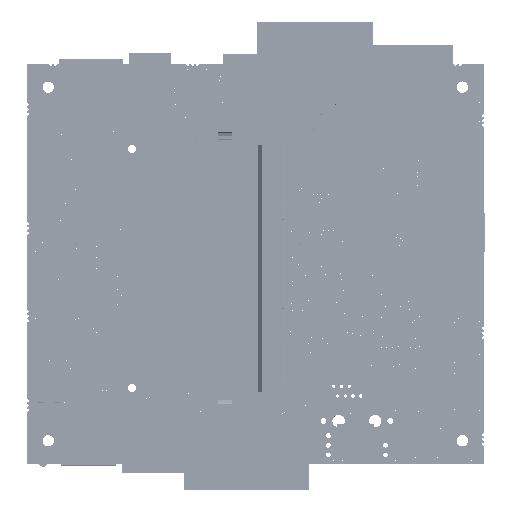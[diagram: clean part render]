
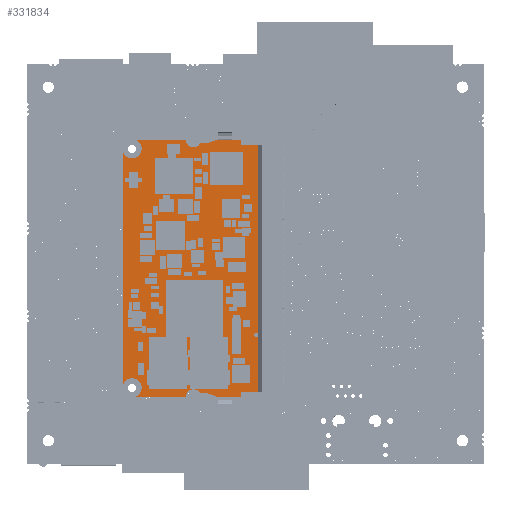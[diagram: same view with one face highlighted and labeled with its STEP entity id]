
A CAD part, top view. The second image highlights one B-rep face of the part: STEP entity #331834.
In plain terms, the highlighted planar face has unit normal (0, 0, 1).
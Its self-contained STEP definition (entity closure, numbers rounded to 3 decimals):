
#90031 = LINE ( 'NONE', #94275, #92783 ) ;
#90084 = LINE ( 'NONE', #94427, #92865 ) ;
#90121 = LINE ( 'NONE', #94581, #92903 ) ;
#90139 = LINE ( 'NONE', #94691, #92933 ) ;
#90146 = LINE ( 'NONE', #94716, #92939 ) ;
#90153 = LINE ( 'NONE', #94740, #92946 ) ;
#90169 = LINE ( 'NONE', #94820, #92968 ) ;
#90176 = LINE ( 'NONE', #98257, #92976 ) ;
#90185 = LINE ( 'NONE', #98292, #92987 ) ;
#92754 = CIRCLE ( 'NONE', #92755, 2.516 ) ;
#92755 = AXIS2_PLACEMENT_3D ( 'NONE', #94226, #94227, #94228 ) ;
#92757 = CIRCLE ( 'NONE', #92759, 1.999 ) ;
#92759 = AXIS2_PLACEMENT_3D ( 'NONE', #94233, #94234, #94235 ) ;
#92783 = VECTOR ( 'NONE', #94276, 1000. ) ;
#92865 = VECTOR ( 'NONE', #94429, 1000. ) ;
#92903 = VECTOR ( 'NONE', #94583, 1000. ) ;
#92926 = CIRCLE ( 'NONE', #92927, 1.999 ) ;
#92927 = AXIS2_PLACEMENT_3D ( 'NONE', #94664, #94666, #94668 ) ;
#92933 = VECTOR ( 'NONE', #94693, 1000. ) ;
#92939 = VECTOR ( 'NONE', #94718, 1000. ) ;
#92946 = VECTOR ( 'NONE', #94742, 1000. ) ;
#92949 = CIRCLE ( 'NONE', #92951, 0.5 ) ;
#92951 = AXIS2_PLACEMENT_3D ( 'NONE', #94761, #94762, #94764 ) ;
#92954 = CIRCLE ( 'NONE', #92958, 0.499 ) ;
#92958 = AXIS2_PLACEMENT_3D ( 'NONE', #94783, #94784, #94786 ) ;
#92968 = VECTOR ( 'NONE', #94822, 1000. ) ;
#92976 = VECTOR ( 'NONE', #98259, 1000. ) ;
#92987 = VECTOR ( 'NONE', #98294, 1000. ) ;
#92993 = CIRCLE ( 'NONE', #92995, 1.999 ) ;
#92995 = AXIS2_PLACEMENT_3D ( 'NONE', #98324, #98325, #98327 ) ;
#92998 = CIRCLE ( 'NONE', #92999, 2.516 ) ;
#92999 = AXIS2_PLACEMENT_3D ( 'NONE', #98343, #98345, #98347 ) ;
#93005 = CIRCLE ( 'NONE', #93007, 2.516 ) ;
#93007 = AXIS2_PLACEMENT_3D ( 'NONE', #98365, #98367, #98369 ) ;
#94226 = CARTESIAN_POINT ( 'NONE',  ( 2.39, 36.152, 1. ) ) ;
#94227 = DIRECTION ( 'NONE',  ( 0., 0., 1. ) ) ;
#94228 = DIRECTION ( 'NONE',  ( 1., 0., 0. ) ) ;
#94233 = CARTESIAN_POINT ( 'NONE',  ( 67.6, 20., 1. ) ) ;
#94234 = DIRECTION ( 'NONE',  ( 0., 0., 1. ) ) ;
#94235 = DIRECTION ( 'NONE',  ( 1., 0., 0. ) ) ;
#94275 = CARTESIAN_POINT ( 'NONE',  ( 33.8, 38.557, 1. ) ) ;
#94276 = DIRECTION ( 'NONE',  ( -1., 0., 0. ) ) ;
#94427 = CARTESIAN_POINT ( 'NONE',  ( 0., -41.395, 1. ) ) ;
#94429 = DIRECTION ( 'NONE',  ( 0., -1., 0. ) ) ;
#94581 = CARTESIAN_POINT ( 'NONE',  ( 67.6, -41.395, 1. ) ) ;
#94583 = DIRECTION ( 'NONE',  ( 0., 1., 0. ) ) ;
#94664 = CARTESIAN_POINT ( 'NONE',  ( 0., 20., 1. ) ) ;
#94666 = DIRECTION ( 'NONE',  ( 0., 0., 1. ) ) ;
#94668 = DIRECTION ( 'NONE',  ( 1., 0., 0. ) ) ;
#94691 = CARTESIAN_POINT ( 'NONE',  ( 0., -41.395, 1. ) ) ;
#94693 = DIRECTION ( 'NONE',  ( 0., -1., 0. ) ) ;
#94716 = CARTESIAN_POINT ( 'NONE',  ( 33.8, 0., 1. ) ) ;
#94718 = DIRECTION ( 'NONE',  ( 1., 0., 0. ) ) ;
#94740 = CARTESIAN_POINT ( 'NONE',  ( 15.751, -41.395, 1. ) ) ;
#94742 = DIRECTION ( 'NONE',  ( 0., 1., 0. ) ) ;
#94761 = CARTESIAN_POINT ( 'NONE',  ( 16.251, 3.5, 1. ) ) ;
#94762 = DIRECTION ( 'NONE',  ( 0., 0., 1. ) ) ;
#94764 = DIRECTION ( 'NONE',  ( 1., 0., 0. ) ) ;
#94783 = CARTESIAN_POINT ( 'NONE',  ( 16.25, 3.501, 1. ) ) ;
#94784 = DIRECTION ( 'NONE',  ( 0., 0., 1. ) ) ;
#94786 = DIRECTION ( 'NONE',  ( 1., 0., 0. ) ) ;
#94820 = CARTESIAN_POINT ( 'NONE',  ( 16.749, -41.395, 1. ) ) ;
#94822 = DIRECTION ( 'NONE',  ( 0., -1., 0. ) ) ;
#98257 = CARTESIAN_POINT ( 'NONE',  ( 33.8, 0., 1. ) ) ;
#98259 = DIRECTION ( 'NONE',  ( 1., 0., 0. ) ) ;
#98292 = CARTESIAN_POINT ( 'NONE',  ( 67.6, -41.395, 1. ) ) ;
#98294 = DIRECTION ( 'NONE',  ( 0., 1., 0. ) ) ;
#98324 = CARTESIAN_POINT ( 'NONE',  ( 67.6, 20., 1. ) ) ;
#98325 = DIRECTION ( 'NONE',  ( 0., 0., 1. ) ) ;
#98327 = DIRECTION ( 'NONE',  ( 1., 0., 0. ) ) ;
#98343 = CARTESIAN_POINT ( 'NONE',  ( 65.209, 36.152, 1. ) ) ;
#98345 = DIRECTION ( 'NONE',  ( 0., 0., 1. ) ) ;
#98347 = DIRECTION ( 'NONE',  ( 1., 0., 0. ) ) ;
#98365 = CARTESIAN_POINT ( 'NONE',  ( 2.39, 36.152, 1. ) ) ;
#98367 = DIRECTION ( 'NONE',  ( 0., 0., 1. ) ) ;
#98369 = DIRECTION ( 'NONE',  ( 1., 0., 0. ) ) ;
#234084 = EDGE_CURVE ( 'NONE', #322183, #322185, #92754, .T. ) ;
#234095 = EDGE_CURVE ( 'NONE', #322188, #322190, #92757, .T. ) ;
#234169 = EDGE_CURVE ( 'NONE', #322231, #322185, #90031, .T. ) ;
#234395 = EDGE_CURVE ( 'NONE', #322295, #322292, #90084, .T. ) ;
#234517 = EDGE_CURVE ( 'NONE', #322188, #322318, #90121, .T. ) ;
#234577 = EDGE_CURVE ( 'NONE', #322320, #322292, #92926, .T. ) ;
#234597 = EDGE_CURVE ( 'NONE', #322320, #322322, #90139, .T. ) ;
#234617 = EDGE_CURVE ( 'NONE', #322322, #322325, #90146, .T. ) ;
#234637 = EDGE_CURVE ( 'NONE', #322325, #322327, #90153, .T. ) ;
#234654 = EDGE_CURVE ( 'NONE', #322331, #322327, #92949, .T. ) ;
#234670 = EDGE_CURVE ( 'NONE', #322333, #322331, #92954, .T. ) ;
#234698 = EDGE_CURVE ( 'NONE', #322333, #322334, #90169, .T. ) ;
#234725 = EDGE_CURVE ( 'NONE', #322334, #322338, #90176, .T. ) ;
#234753 = EDGE_CURVE ( 'NONE', #322338, #322340, #90185, .T. ) ;
#234779 = EDGE_CURVE ( 'NONE', #322190, #322340, #92993, .T. ) ;
#234790 = EDGE_CURVE ( 'NONE', #322231, #322318, #92998, .T. ) ;
#234806 = EDGE_CURVE ( 'NONE', #322295, #322183, #93005, .T. ) ;
#237576 = EDGE_LOOP ( 'NONE', ( #284748, #284757, #284738, #284752, #284764, #284770, #284762, #284773, #284779, #284782, #284786, #284789, #284793, #284794, #284800, #284805, #284809 ) ) ;
#257899 = CARTESIAN_POINT ( 'NONE',  ( 4.906, 36.152, 1. ) ) ;
#257903 = CARTESIAN_POINT ( 'NONE',  ( 3.127, 38.557, 1. ) ) ;
#257906 = CARTESIAN_POINT ( 'NONE',  ( 67.6, 21.999, 1. ) ) ;
#257910 = CARTESIAN_POINT ( 'NONE',  ( 65.601, 20., 1. ) ) ;
#260415 = CARTESIAN_POINT ( 'NONE',  ( 64.473, 38.557, 1. ) ) ;
#260654 = CARTESIAN_POINT ( 'NONE',  ( 0., 21.999, 1. ) ) ;
#260665 = CARTESIAN_POINT ( 'NONE',  ( 0., 35.367, 1. ) ) ;
#260733 = CARTESIAN_POINT ( 'NONE',  ( 67.6, 35.367, 1. ) ) ;
#260741 = CARTESIAN_POINT ( 'NONE',  ( 0., 18.001, 1. ) ) ;
#260746 = CARTESIAN_POINT ( 'NONE',  ( 0., 0., 1. ) ) ;
#260752 = CARTESIAN_POINT ( 'NONE',  ( 15.751, 0., 1. ) ) ;
#260758 = CARTESIAN_POINT ( 'NONE',  ( 15.751, 3.5, 1. ) ) ;
#260769 = CARTESIAN_POINT ( 'NONE',  ( 16.251, 4.001, 1. ) ) ;
#260776 = CARTESIAN_POINT ( 'NONE',  ( 16.749, 3.5, 1. ) ) ;
#260778 = CARTESIAN_POINT ( 'NONE',  ( 16.749, 0., 1. ) ) ;
#260788 = CARTESIAN_POINT ( 'NONE',  ( 67.6, 0., 1. ) ) ;
#260795 = CARTESIAN_POINT ( 'NONE',  ( 67.6, 18.001, 1. ) ) ;
#284738 = ORIENTED_EDGE ( 'NONE', *, *, #234084, .F. ) ;
#284748 = ORIENTED_EDGE ( 'NONE', *, *, #234790, .F. ) ;
#284752 = ORIENTED_EDGE ( 'NONE', *, *, #234806, .F. ) ;
#284757 = ORIENTED_EDGE ( 'NONE', *, *, #234169, .T. ) ;
#284762 = ORIENTED_EDGE ( 'NONE', *, *, #234597, .T. ) ;
#284764 = ORIENTED_EDGE ( 'NONE', *, *, #234395, .T. ) ;
#284770 = ORIENTED_EDGE ( 'NONE', *, *, #234577, .F. ) ;
#284773 = ORIENTED_EDGE ( 'NONE', *, *, #234617, .T. ) ;
#284779 = ORIENTED_EDGE ( 'NONE', *, *, #234637, .T. ) ;
#284782 = ORIENTED_EDGE ( 'NONE', *, *, #234654, .F. ) ;
#284786 = ORIENTED_EDGE ( 'NONE', *, *, #234670, .F. ) ;
#284789 = ORIENTED_EDGE ( 'NONE', *, *, #234698, .T. ) ;
#284793 = ORIENTED_EDGE ( 'NONE', *, *, #234725, .T. ) ;
#284794 = ORIENTED_EDGE ( 'NONE', *, *, #234753, .T. ) ;
#284800 = ORIENTED_EDGE ( 'NONE', *, *, #234779, .F. ) ;
#284805 = ORIENTED_EDGE ( 'NONE', *, *, #234095, .F. ) ;
#284809 = ORIENTED_EDGE ( 'NONE', *, *, #234517, .T. ) ;
#301809 = FACE_OUTER_BOUND ( 'NONE', #237576, .T. ) ;
#310426 = AXIS2_PLACEMENT_3D ( 'NONE', #316149, #316150, #316152 ) ;
#316147 = PLANE ( 'NONE',  #310426 ) ;
#316149 = CARTESIAN_POINT ( 'NONE',  ( 33.8, -41.395, 1. ) ) ;
#316150 = DIRECTION ( 'NONE',  ( 0., 0., 1. ) ) ;
#316152 = DIRECTION ( 'NONE',  ( 1., 0., 0. ) ) ;
#322183 = VERTEX_POINT ( 'NONE', #257899 ) ;
#322185 = VERTEX_POINT ( 'NONE', #257903 ) ;
#322188 = VERTEX_POINT ( 'NONE', #257906 ) ;
#322190 = VERTEX_POINT ( 'NONE', #257910 ) ;
#322231 = VERTEX_POINT ( 'NONE', #260415 ) ;
#322292 = VERTEX_POINT ( 'NONE', #260654 ) ;
#322295 = VERTEX_POINT ( 'NONE', #260665 ) ;
#322318 = VERTEX_POINT ( 'NONE', #260733 ) ;
#322320 = VERTEX_POINT ( 'NONE', #260741 ) ;
#322322 = VERTEX_POINT ( 'NONE', #260746 ) ;
#322325 = VERTEX_POINT ( 'NONE', #260752 ) ;
#322327 = VERTEX_POINT ( 'NONE', #260758 ) ;
#322331 = VERTEX_POINT ( 'NONE', #260769 ) ;
#322333 = VERTEX_POINT ( 'NONE', #260776 ) ;
#322334 = VERTEX_POINT ( 'NONE', #260778 ) ;
#322338 = VERTEX_POINT ( 'NONE', #260788 ) ;
#322340 = VERTEX_POINT ( 'NONE', #260795 ) ;
#331834 = ADVANCED_FACE ( 'NONE', ( #301809 ), #316147, .T. ) ;
